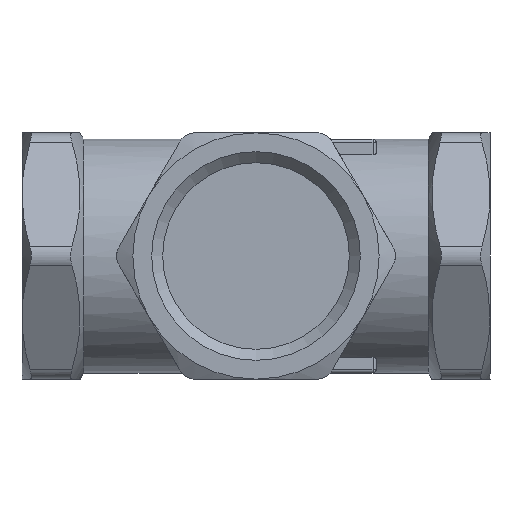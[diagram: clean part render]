
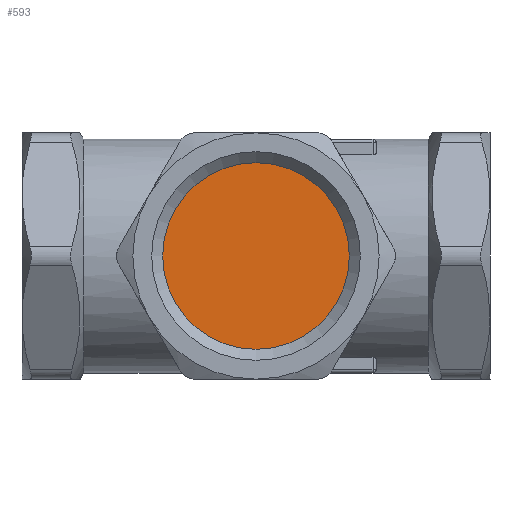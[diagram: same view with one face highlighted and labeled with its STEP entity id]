
A CAD part, front view. The second image highlights one B-rep face of the part: STEP entity #593.
In plain terms, the highlighted planar face has unit normal (0, -1, 0).
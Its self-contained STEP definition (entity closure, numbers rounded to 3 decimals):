
#593=ADVANCED_FACE('',(#4477),#4479,.T.);
#4477=FACE_BOUND('',#4478,.T.);
#4478=EDGE_LOOP('',(#7631));
#4479=PLANE('',#4480);
#4480=AXIS2_PLACEMENT_3D('',#4481,#4482,#4483);
#4481=CARTESIAN_POINT('',(0.,-20.,0.));
#4482=DIRECTION('',(0.,-1.,0.));
#4483=DIRECTION('',(1.,0.,0.));
#7631=ORIENTED_EDGE('',*,*,#9139,.T.);
#9139=EDGE_CURVE('',#11648,#11648,#11649,.T.);
#11648=VERTEX_POINT('',#22121);
#11649=CIRCLE('',#22122,15.146);
#22121=CARTESIAN_POINT('',(15.146,-20.,0.));
#22122=AXIS2_PLACEMENT_3D('',#22123,#22124,#22125);
#22123=CARTESIAN_POINT('',(0.,-20.,0.));
#22124=DIRECTION('',(0.,-1.,0.));
#22125=DIRECTION('',(1.,0.,0.));
